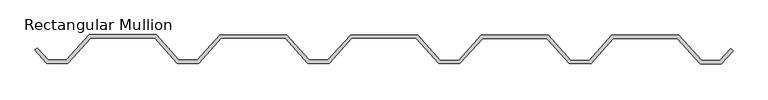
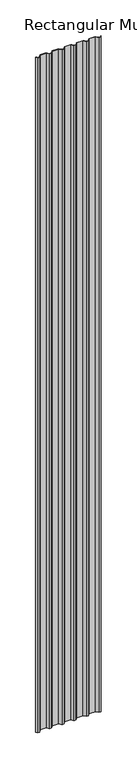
"""IFC4 building model written with IfcOpenShell, lengths in millimetres: member geometry, Rectangular Mullion : Telha Metálica - Trapezoidal."""

from ifc_helpers import new_model, si_unit, frame, origin, place, context, project, spatial, polyline, outline, extrude, source, transform, mapped, element, save


def rectangular_mullion_30670395(model_context):
    return source(origin(), model_context, "Body", "SweptSolid", [
        extrude(outline(polyline([(440.066155, 75.6159987), (344.0661915, 75.6997745), (310.0330432, 37.7294595), (278.0330554, 37.7573848), (244.0662296, 75.7870409), (148.0662661, 75.8708167), (114.0331178, 37.9005018), (82.03313, 37.928427), (48.0663042, 75.9580832), (-47.9336592, 76.041859), (-81.9668075, 38.071544), (-113.9667953, 38.0994693), (-147.9336211, 76.1291254), (-243.9335846, 76.2129012), (-277.9667329, 38.2425863), (-309.9667207, 38.2705115), (-343.9335465, 76.3001677), (-439.93351, 76.3839434), (-473.9666583, 38.4136285), (-505.9666461, 38.4415538), (-523.4905169, 58.0614849), (-519.9464424, 61.5993792), (-503.7267316, 43.439601), (-476.1978461, 43.4155775), (-442.1646978, 81.3858924), (-341.693632, 81.2982149), (-307.7268062, 43.2685587), (-280.1979207, 43.2445352), (-246.1647724, 81.2148502), (-145.6937067, 81.1271726), (-111.7268809, 43.0975165), (-84.1979953, 43.073493), (-50.164847, 81.0438079), (50.3062187, 80.9561304), (84.2730445, 42.9264742), (111.80193, 42.9024508), (145.8350783, 80.8727657), (246.3061441, 80.7850881), (280.2729699, 42.755432), (307.8018554, 42.7314085), (341.8350037, 80.7017235), (442.3060694, 80.6140459), (476.2728952, 42.5843898), (503.8017808, 42.5603663), (520.072301, 60.7131616), (523.6101953, 57.1690871), (506.0329686, 37.5584173), (474.0329808, 37.5863426), (440.066155, 75.6159987)])), frame((0.0, 0.0, -11384.9029976), z_axis=(0.0, 0.0, 1.0), x_axis=(1.0, 0.0, 0.0)), (0.0, 0.0, 1.0), 11384.9029976),
    ])


if __name__ == "__main__":
    model = new_model("IFC4")
    model_context = context("Model", 3, world=origin())
    ifc_project = project(units=[si_unit("LENGTHUNIT", "METRE", prefix="MILLI")], contexts=[model_context])
    site = spatial("IfcSite", under=ifc_project)
    building = spatial("IfcBuilding", under=site)
    placement = place(None, origin())
    rectangular_mullion_shape = rectangular_mullion_30670395(model_context)
    element("IfcMember", 1, ObjectType="Rectangular Mullion : Telha Metálica - Trapezoidal", at=placement, inside=building, context=model_context, shape_type="MappedRepresentation", body=[
        mapped(rectangular_mullion_shape, transform((0.0, 0.0, 0.0), x_axis=(1.0, 0.0, 0.0), y_axis=(0.0, 1.0, 0.0), z_axis=(0.0, 0.0, 1.0))),
    ])
    save(model, "model.ifc")
